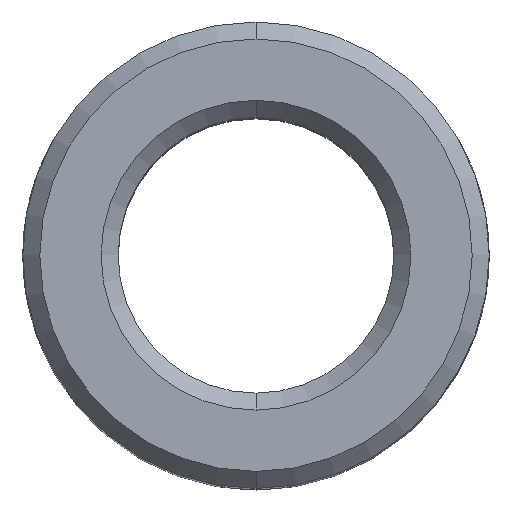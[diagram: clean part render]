
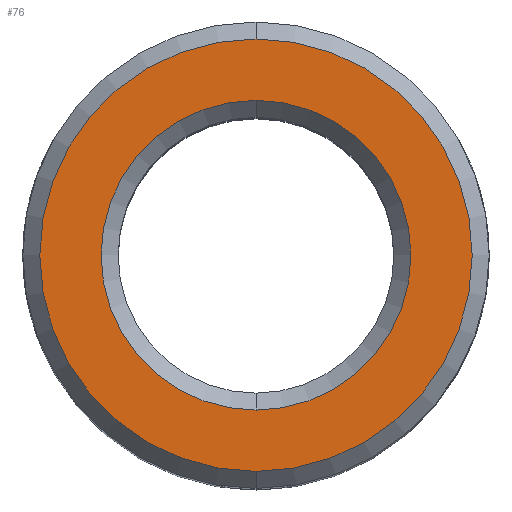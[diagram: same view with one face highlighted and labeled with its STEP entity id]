
A CAD part, top view. The second image highlights one B-rep face of the part: STEP entity #76.
In plain terms, the highlighted planar face has unit normal (0, 0, 1).
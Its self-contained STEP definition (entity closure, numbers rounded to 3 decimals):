
#36 = EDGE_CURVE ( 'NONE', #564, #1157, #1353, .T. ) ;
#73 = DIRECTION ( 'NONE',  ( 0., 1., 0. ) ) ;
#76 = ADVANCED_FACE ( 'NONE', ( #691, #993 ), #284, .F. ) ;
#138 = EDGE_CURVE ( 'NONE', #1157, #564, #652, .T. ) ;
#147 = EDGE_CURVE ( 'NONE', #677, #787, #583, .T. ) ;
#196 = CARTESIAN_POINT ( 'NONE',  ( 0., 63.5, 0. ) ) ;
#199 = ORIENTED_EDGE ( 'NONE', *, *, #36, .T. ) ;
#205 = DIRECTION ( 'NONE',  ( 0., 0., 1. ) ) ;
#213 = DIRECTION ( 'NONE',  ( 0., 0., 1. ) ) ;
#268 = DIRECTION ( 'NONE',  ( 0., 1., 0. ) ) ;
#284 = PLANE ( 'NONE',  #350 ) ;
#323 = CARTESIAN_POINT ( 'NONE',  ( 0., 0., 0. ) ) ;
#350 = AXIS2_PLACEMENT_3D ( 'NONE', #1138, #1242, #1233 ) ;
#391 = ORIENTED_EDGE ( 'NONE', *, *, #138, .T. ) ;
#564 = VERTEX_POINT ( 'NONE', #1420 ) ;
#567 = CARTESIAN_POINT ( 'NONE',  ( 0., 0., 0. ) ) ;
#583 = CIRCLE ( 'NONE', #755, 63.5 ) ;
#627 = ORIENTED_EDGE ( 'NONE', *, *, #1425, .T. ) ;
#652 = CIRCLE ( 'NONE', #662, 45.5 ) ;
#662 = AXIS2_PLACEMENT_3D ( 'NONE', #673, #1431, #73 ) ;
#667 = CIRCLE ( 'NONE', #950, 63.5 ) ;
#673 = CARTESIAN_POINT ( 'NONE',  ( 0., 0., 0. ) ) ;
#677 = VERTEX_POINT ( 'NONE', #196 ) ;
#691 = FACE_BOUND ( 'NONE', #934, .T. ) ;
#755 = AXIS2_PLACEMENT_3D ( 'NONE', #323, #205, #1045 ) ;
#759 = CARTESIAN_POINT ( 'NONE',  ( 0., 0., 0. ) ) ;
#787 = VERTEX_POINT ( 'NONE', #1264 ) ;
#807 = DIRECTION ( 'NONE',  ( 0., 0., -1. ) ) ;
#825 = DIRECTION ( 'NONE',  ( 0., 1., 0. ) ) ;
#934 = EDGE_LOOP ( 'NONE', ( #199, #391 ) ) ;
#950 = AXIS2_PLACEMENT_3D ( 'NONE', #567, #213, #268 ) ;
#993 = FACE_OUTER_BOUND ( 'NONE', #1217, .T. ) ;
#1045 = DIRECTION ( 'NONE',  ( 0., 1., 0. ) ) ;
#1138 = CARTESIAN_POINT ( 'NONE',  ( 0., 40.5, 0. ) ) ;
#1157 = VERTEX_POINT ( 'NONE', #1188 ) ;
#1188 = CARTESIAN_POINT ( 'NONE',  ( 0., 45.5, 0. ) ) ;
#1198 = ORIENTED_EDGE ( 'NONE', *, *, #147, .T. ) ;
#1217 = EDGE_LOOP ( 'NONE', ( #1198, #627 ) ) ;
#1233 = DIRECTION ( 'NONE',  ( 0., 1., 0. ) ) ;
#1242 = DIRECTION ( 'NONE',  ( 0., 0., -1. ) ) ;
#1252 = AXIS2_PLACEMENT_3D ( 'NONE', #759, #807, #825 ) ;
#1264 = CARTESIAN_POINT ( 'NONE',  ( 0., -63.5, 0. ) ) ;
#1353 = CIRCLE ( 'NONE', #1252, 45.5 ) ;
#1420 = CARTESIAN_POINT ( 'NONE',  ( 0., -45.5, 0. ) ) ;
#1425 = EDGE_CURVE ( 'NONE', #787, #677, #667, .T. ) ;
#1431 = DIRECTION ( 'NONE',  ( 0., 0., -1. ) ) ;
